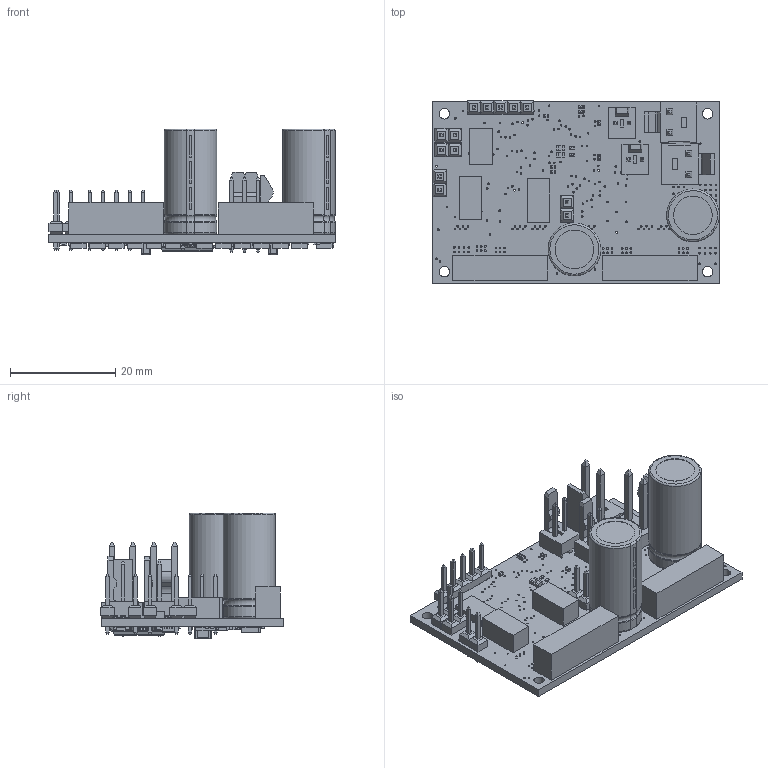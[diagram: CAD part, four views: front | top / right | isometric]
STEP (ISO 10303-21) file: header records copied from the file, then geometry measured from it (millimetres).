
FILE_DESCRIPTION(/* description */ (''),/* implementation_level */ '2;1');
FILE_NAME(/* name */ 'C:/Users/priba/Documents/Temp/Export/mrm-bldc2x50 v4.step',/* time_stamp */ '2019-09-09T00:13:16+02:00',/* author */ (''),/* organization */ (''),/* preprocessor_version */ 'ST-DEVELOPER v18',/* originating_system */ 'Autodesk Translation Framework v8.6.0.1094',/* authorisation */ '');
FILE_SCHEMA (('AUTOMOTIVE_DESIGN { 1 0 10303 214 3 1 1 }'));
Length unit declared in the file: millimetre
Products named in the file (46): mrm-bldc2x50; PCB Component; Board; MOLEX_1718130002; ON_SEMICONDUCTOR_RB751S40T1G; DIODES_MMBT3904-7-F; INFINEON_TLE9250XLEXUMA1; STM32F072RBT6; Body; PinsArrayLR; PinsArrayTB; MOLEX_22-27-2021; SOT-23; CHIPLED_0402; 1.5 kOhm; 10 kOhm; AON7418; 100 nF; TI_ESD321DPYR; term1; term2; body_1; FIDUCIAL1X2; JST_BM04B-GHK-TBT; 1X05; 2X3-NS; 1X02; TI_TPD8E003DQDR; Body (1); ThermalPin; PinsArrayLR (1); TI_DRV8323SRTAR; Body (2); ThermalPin (1); PinsArrayLR (2); PinsArrayTB (1); SUSUMU_PRL1632-R010-F-T1; term1 (1); term2 (1); body (1)_1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
Assembly tree (112 placements, depth 4):
  mrm-bldc2x50
    PCB Component
      Board
      MOLEX_1718130002  x2
      10 kOhm  x8
      ON_SEMICONDUCTOR_RB751S40T1G
      DIODES_MMBT3904-7-F
      AON7418  x13
      INFINEON_TLE9250XLEXUMA1
      STM32F072RBT6
        Body
        PinsArrayLR
        PinsArrayTB
      100 nF  x23
      MOLEX_22-27-2021  x2
      SOT-23
      CHIPLED_0402  x2
      1.5 kOhm  x2
      TI_ESD321DPYR  x5
        term1
        term2
        body_1
      FIDUCIAL1X2  x6
      JST_BM04B-GHK-TBT  x2
      1X05
      2X3-NS
      1X02  x4
      TI_TPD8E003DQDR
        Body (1)
        ThermalPin
        PinsArrayLR (1)
      TI_DRV8323SRTAR  x2
        Body (2)
        ThermalPin (1)
        PinsArrayLR (2)
        PinsArrayTB (1)
      SUSUMU_PRL1632-R010-F-T1  x6
        term1 (1)
        term2 (1)
        body (1)_1
      470 uF  x2
      15 uF  x2
        Fillet1
        Fillet2
        body2
      JST_B8B-PH-K-S(LF)(SN)  x2
Bounding box: 54.6 x 34.67 x 23.86 mm (x, y, z)
Volume: 8661.7 mm3; surface area: 11038 mm2
Topology: 289 solids, 289 shells, 5341 faces, 13452 edges, 8593 vertices
Faces by surface type: plane 3281, cylinder 1600, sphere 376, bspline 64, torus 20
Full cylindrical faces by diameter (mm): 0.169 x1, 0.3 x294, 0.6 x4, 0.7 x20, 0.75 x2, 1.016 x19, 1.11 x4, 1.25 x1, 1.73 x4, 2 x4, 7.333 x2
Entity records: 81232 total; most frequent: CARTESIAN_POINT 15421, DIRECTION 12966, ORIENTED_EDGE 12680, EDGE_CURVE 6340, LINE 4506, VECTOR 4506, AXIS2_PLACEMENT_3D 4230, VERTEX_POINT 4144
